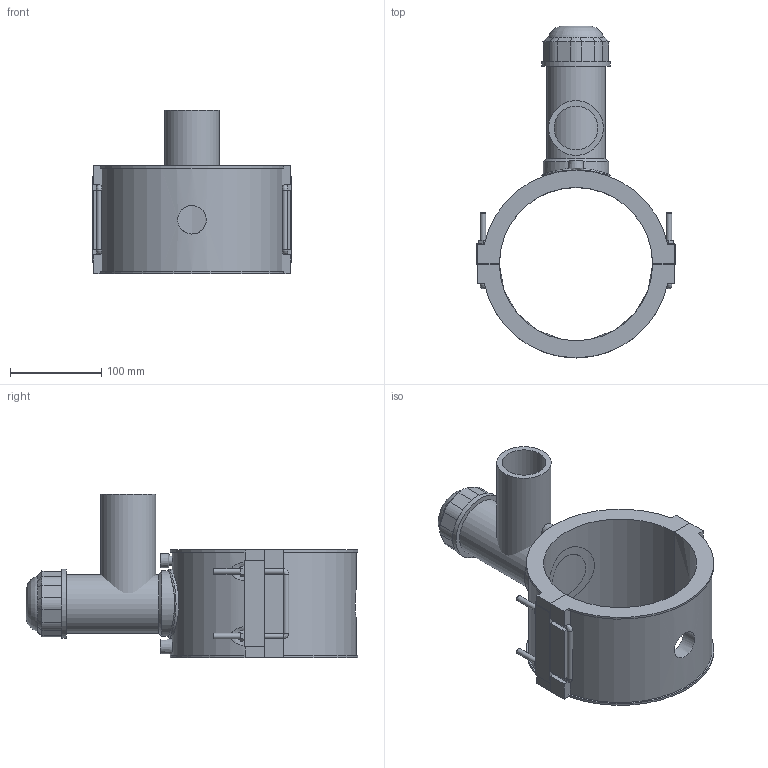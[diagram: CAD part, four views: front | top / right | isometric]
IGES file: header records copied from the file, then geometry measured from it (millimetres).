
Global section: file name: 5963BBP3060020.ipt; native system: Autodesk Inventor 2019; preprocessor: unknown; author: KIM; date: 20210830.101559; units: inch
Bounding box: 217.9 x 363.85 x 178.94 mm (x, y, z)
Volume: 1690927.6 mm3; surface area: 300221.3 mm2
Topology: 3 solids, 4 shells, 185 faces, 464 edges, 293 vertices
Faces by surface type: plane 115, cylinder 33, cone 15, revolution 13, bspline 9
Full cylindrical faces by diameter (mm): 4 x2, 6 x10, 60.1 x1, 64.26 x1, 71.82 x1, 75.6 x2
